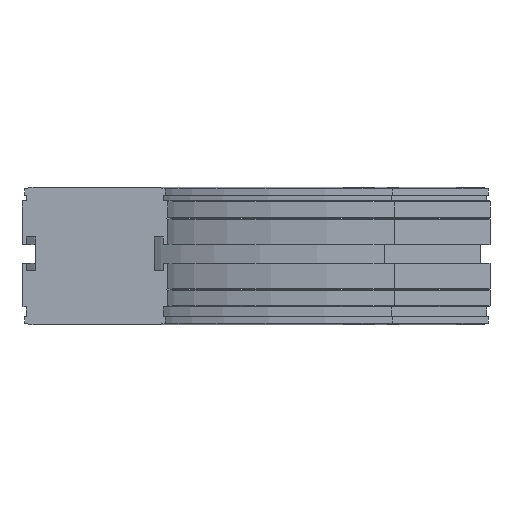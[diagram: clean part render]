
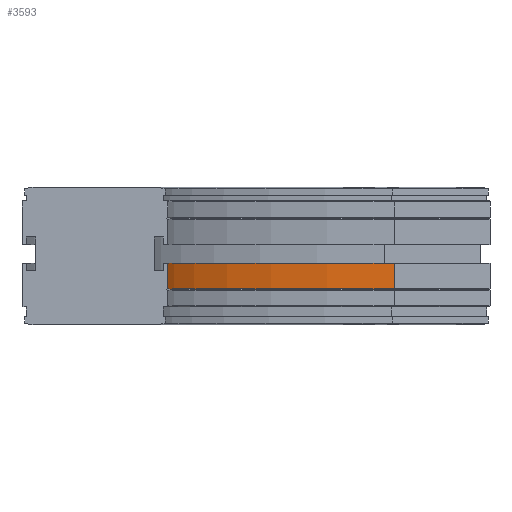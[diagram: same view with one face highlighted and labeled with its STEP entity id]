
A CAD part, left-side view. The second image highlights one B-rep face of the part: STEP entity #3593.
In plain terms, the highlighted cylindrical face has radius 457 mm (diameter 914 mm), a partial arc.
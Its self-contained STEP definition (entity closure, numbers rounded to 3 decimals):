
#2261=CARTESIAN_POINT('',(403.148,-176.852,-60.));
#2262=VERTEX_POINT('',#2261);
#2292=CARTESIAN_POINT('',(403.148,-176.852,-45.));
#2293=VERTEX_POINT('',#2292);
#2300=CARTESIAN_POINT('',(403.148,-176.852,-60.));
#2301=DIRECTION('',(0.0,0.0,1.0));
#2302=VECTOR('',#2301,15.0);
#2303=LINE('',#2300,#2302);
#2304=EDGE_CURVE('',#2262,#2293,#2303,.T.);
#3550=CARTESIAN_POINT('',(80.0,-43.0,-60.));
#3551=VERTEX_POINT('',#3550);
#3552=CARTESIAN_POINT('',(80.0,-500.0,-60.));
#3553=DIRECTION('',(0.0,0.0,-1.));
#3554=DIRECTION('',(-0.707,-0.707,0.0));
#3555=AXIS2_PLACEMENT_3D('',#3552,#3553,#3554);
#3556=CIRCLE('',#3555,457.);
#3557=EDGE_CURVE('',#3551,#2262,#3556,.T.);
#3569=CARTESIAN_POINT('',(80.0,-500.0,-52.5));
#3570=DIRECTION('',(0.0,0.0,-1.0));
#3571=DIRECTION('',(-0.707,-0.707,0.0));
#3572=AXIS2_PLACEMENT_3D('',#3569,#3570,#3571);
#3573=CYLINDRICAL_SURFACE('',#3572,457.);
#3574=ORIENTED_EDGE('',*,*,#2304,.T.);
#3575=CARTESIAN_POINT('',(80.0,-43.0,-45.));
#3576=VERTEX_POINT('',#3575);
#3577=CARTESIAN_POINT('',(80.0,-500.0,-45.));
#3578=DIRECTION('',(0.0,0.0,-1.));
#3579=DIRECTION('',(-0.707,-0.707,0.0));
#3580=AXIS2_PLACEMENT_3D('',#3577,#3578,#3579);
#3581=CIRCLE('',#3580,457.);
#3582=EDGE_CURVE('',#3576,#2293,#3581,.T.);
#3583=ORIENTED_EDGE('',*,*,#3582,.F.);
#3584=CARTESIAN_POINT('',(80.0,-43.0,-60.));
#3585=DIRECTION('',(0.0,0.0,1.0));
#3586=VECTOR('',#3585,15.0);
#3587=LINE('',#3584,#3586);
#3588=EDGE_CURVE('',#3551,#3576,#3587,.T.);
#3589=ORIENTED_EDGE('',*,*,#3588,.F.);
#3590=ORIENTED_EDGE('',*,*,#3557,.T.);
#3591=EDGE_LOOP('',(#3574,#3583,#3589,#3590));
#3592=FACE_OUTER_BOUND('',#3591,.T.);
#3593=ADVANCED_FACE('',(#3592),#3573,.F.);
